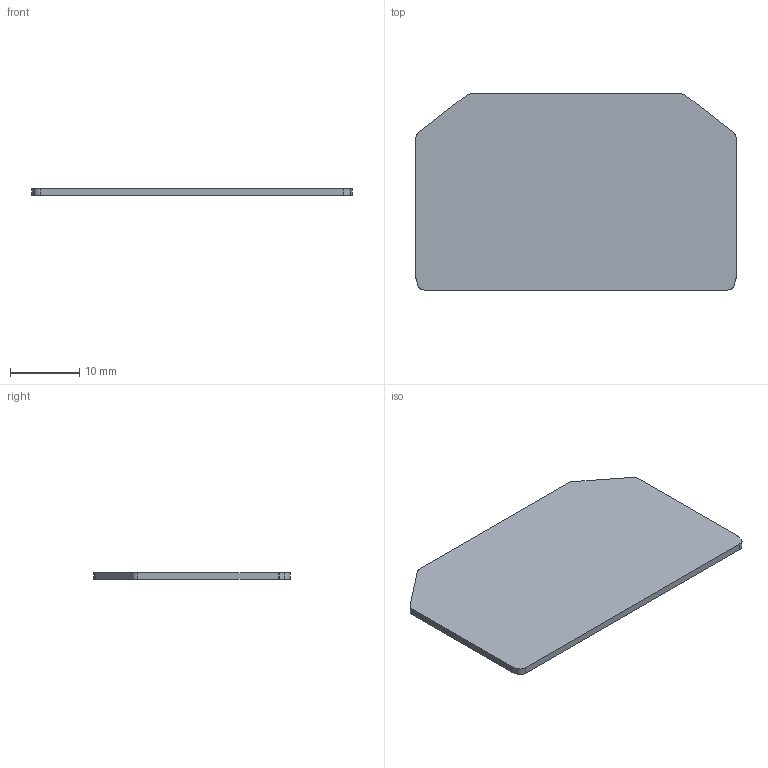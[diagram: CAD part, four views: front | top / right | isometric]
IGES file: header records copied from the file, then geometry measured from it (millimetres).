
Global section: file name: 3101029_d_mtk_select.igs; native system: OneSpace Designer 3D IGES; preprocessor: 12.01C  26-Mar-2004; date: 20040708.074323; units: millimetre
Bounding box: 46.2 x 28.3 x 1 mm (x, y, z)
Surface area: 2665.3 mm2 (no closed solid volume)
Topology: 0 solids, 0 shells, 18 faces, 124 edges, 124 vertices
Faces by surface type: bspline 18
